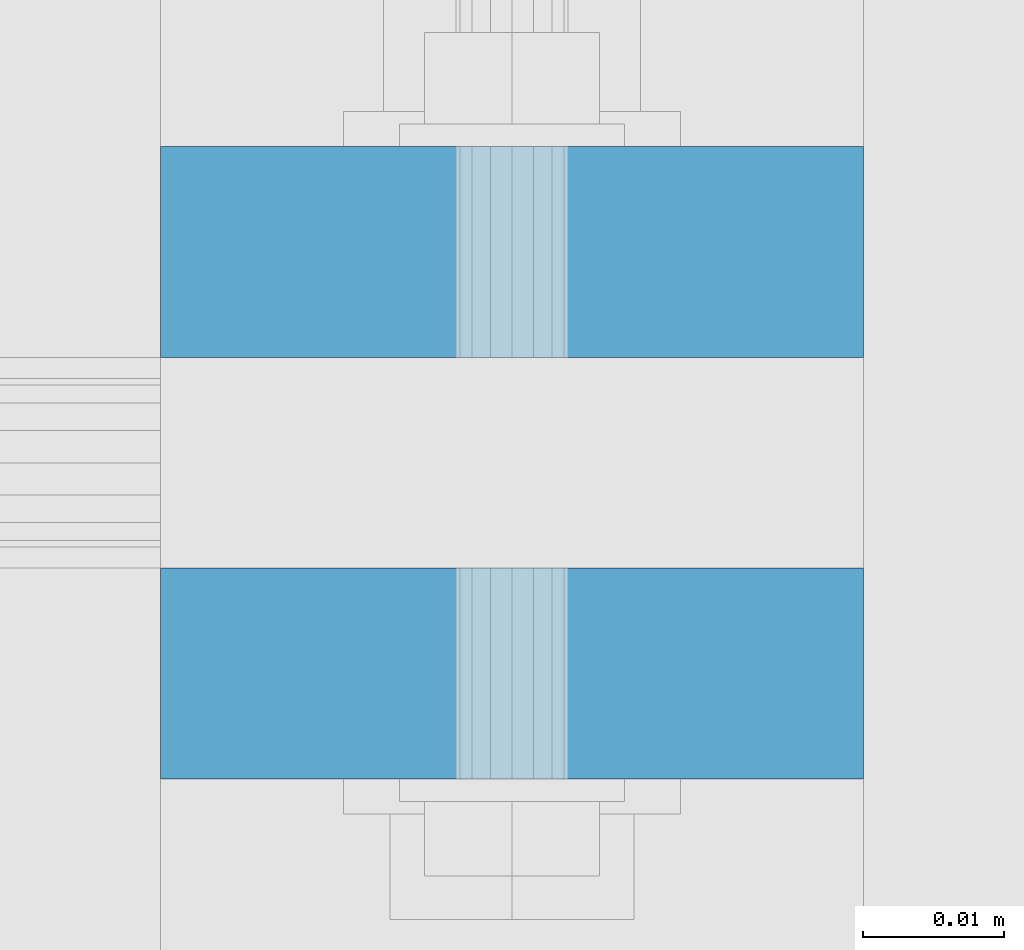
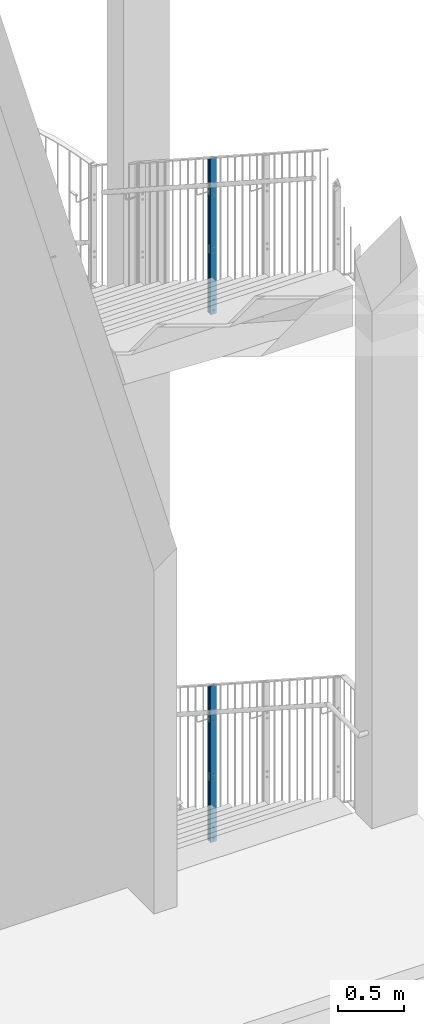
# One storey, part 40 of 296: 4 columns, 24 openings.
"""IFC2X3 building model written with IfcOpenShell, lengths in millimetres."""

from ifc_helpers import new_model, entity, si_unit, converted_unit, frame, frame_2d, origin, origin_with_axes, origin_2d, place, context, project, spatial, rectangle, circle, extrude, clip, halfspace, material, element, save


model = new_model("IFC2X3")

# Units and contexts
model_context = context("Model", 3, precision=1e-09, world=origin_with_axes())
ifc_project = project(units=[si_unit("LENGTHUNIT", "METRE", prefix="MILLI"), si_unit("AREAUNIT", "SQUARE_METRE"), si_unit("VOLUMEUNIT", "CUBIC_METRE"), converted_unit("PLANEANGLEUNIT", "DEGREE", entity("IfcPlaneAngleMeasure", 0.01745329), si_unit("PLANEANGLEUNIT", "RADIAN"), dimensions=[0, 0, 0, 0, 0, 0, 0])], contexts=[model_context])

# Site, building, storey
site_placement = place(None, origin_with_axes())
site = spatial("IfcSite", under=ifc_project, at=site_placement, Name="TZD-S?d | Treppenhausgel?nder", CompositionType="ELEMENT")
building_placement = place(site_placement, origin_with_axes())
building = spatial("IfcBuilding", under=site, at=building_placement, Name="Struktur 1", CompositionType="ELEMENT")
storey_placement = place(building_placement, origin_with_axes())
storey = spatial("IfcBuildingStorey", under=building, at=storey_placement, Name="Default Storey", CompositionType="ELEMENT", Elevation=0.0)

# Column, openings
ifc_material = material(Name="S235JR")
column_1_placement = place(None, frame((5894.999, -1505.0, 8154.999), z_axis=(0.0, 0.0, 1.0), x_axis=(0.0, -1.0, 0.0)))
column_1 = element("IfcColumn", 1, at=column_1_placement, inside=storey, material=ifc_material, Name="-", ObjectType="-", context=model_context, shape_type="Clipping", body=[
    clip(extrude(rectangle(XDim=15.0, YDim=50.0, at=origin_2d()), origin(), (0.0, 0.0, 1.0), 1455.90433317), halfspace(frame((-5431.250683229, -5894.999, -2092.80868189), z_axis=(0.543608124, 0.0, -0.839339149), x_axis=(0.0, 1.0, 0.0)), True)),
])
opening_1_placement = place(column_1_placement, frame((-8.0, 7.001, 135.0), z_axis=(-1.0, 0.0, 0.0), x_axis=(0.0, -1.0, 0.0)))
element("IfcOpeningElement", 2, at=opening_1_placement, cuts=column_1, ObjectType="Opening", context=model_context, shape_type="SweptSolid", body=[
    extrude(circle(Radius=7.001, at=frame_2d((7.001, 0.0), x_axis=(1.0, 0.0))), origin(), (0.0, 0.0, -1.0), 16.0),
])
opening_2_placement = place(column_1_placement, frame((-8.0, 7.001, 35.0), z_axis=(-1.0, 0.0, 0.0), x_axis=(0.0, -1.0, 0.0)))
element("IfcOpeningElement", 3, at=opening_2_placement, cuts=column_1, ObjectType="Opening", context=model_context, shape_type="SweptSolid", body=[
    extrude(circle(Radius=7.001, at=frame_2d((7.001, 0.0), x_axis=(1.0, 0.0))), origin(), (0.0, 0.0, -1.0), 16.0),
])
opening_3_placement = place(column_1_placement, frame((-8.0, 5.001, 1162.019363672), z_axis=(-1.0, 0.0, 0.0), x_axis=(0.0, -1.0, 0.0)))
element("IfcOpeningElement", 4, at=opening_3_placement, cuts=column_1, ObjectType="Opening", context=model_context, shape_type="SweptSolid", body=[
    extrude(circle(Radius=5.001, at=frame_2d((5.001, 0.0), x_axis=(1.0, 0.0))), origin(), (0.0, 0.0, -1.0), 16.0),
])
opening_4_placement = place(column_1_placement, frame((-8.0, 5.001, 1112.019363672), z_axis=(-1.0, 0.0, 0.0), x_axis=(0.0, -1.0, 0.0)))
element("IfcOpeningElement", 5, at=opening_4_placement, cuts=column_1, ObjectType="Opening", context=model_context, shape_type="SweptSolid", body=[
    extrude(circle(Radius=5.001, at=frame_2d((5.001, 0.0), x_axis=(1.0, 0.0))), origin(), (0.0, 0.0, -1.0), 16.0),
])
opening_5_placement = place(column_1_placement, frame((-8.0, 5.001, 624.999999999), z_axis=(-1.0, 0.0, 0.0), x_axis=(0.0, -1.0, 0.0)))
element("IfcOpeningElement", 6, at=opening_5_placement, cuts=column_1, ObjectType="Opening", context=model_context, shape_type="SweptSolid", body=[
    extrude(circle(Radius=5.001, at=frame_2d((5.001, 0.0), x_axis=(1.0, 0.0))), origin(), (0.0, 0.0, -1.0), 16.0),
])
opening_6_placement = place(column_1_placement, frame((-8.0, 5.001, 574.999999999), z_axis=(-1.0, 0.0, 0.0), x_axis=(0.0, -1.0, 0.0)))
element("IfcOpeningElement", 7, at=opening_6_placement, cuts=column_1, ObjectType="Opening", context=model_context, shape_type="SweptSolid", body=[
    extrude(circle(Radius=5.001, at=frame_2d((5.001, 0.0), x_axis=(1.0, 0.0))), origin(), (0.0, 0.0, -1.0), 16.0),
])

column_2_placement = place(None, frame((5894.999, -1535.0, 8154.999), z_axis=(0.0, 0.0, -1.0), x_axis=(0.0, 1.0, 0.0)))
column_2 = element("IfcColumn", 8, at=column_2_placement, inside=storey, material=ifc_material, Name="-", ObjectType="-", context=model_context, shape_type="Clipping", body=[
    clip(extrude(rectangle(XDim=15.0, YDim=50.0, at=origin_2d()), origin(), (0.0, 0.0, -1.0), 1475.334195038), halfspace(frame((5461.250683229, -5894.999, 2092.80868189), z_axis=(-0.543608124, 0.0, 0.839339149), x_axis=(0.0, 1.0, 0.0)), True)),
])
opening_7_placement = place(column_2_placement, frame((8.0, 7.001, -135.0), z_axis=(1.0, 0.0, 0.0), x_axis=(0.0, 1.0, 0.0)))
element("IfcOpeningElement", 9, at=opening_7_placement, cuts=column_2, ObjectType="Opening", context=model_context, shape_type="SweptSolid", body=[
    extrude(circle(Radius=7.001, at=frame_2d((-7.001, 0.0), x_axis=(1.0, 0.0))), origin(), (0.0, 0.0, -1.0), 16.0),
])
opening_8_placement = place(column_2_placement, frame((8.0, 7.001, -35.0), z_axis=(1.0, 0.0, 0.0), x_axis=(0.0, 1.0, 0.0)))
element("IfcOpeningElement", 10, at=opening_8_placement, cuts=column_2, ObjectType="Opening", context=model_context, shape_type="SweptSolid", body=[
    extrude(circle(Radius=7.001, at=frame_2d((-7.001, 0.0), x_axis=(1.0, 0.0))), origin(), (0.0, 0.0, -1.0), 16.0),
])
opening_9_placement = place(column_2_placement, frame((8.0, 5.001, -624.999999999), z_axis=(1.0, 0.0, 0.0), x_axis=(0.0, 1.0, 0.0)))
element("IfcOpeningElement", 11, at=opening_9_placement, cuts=column_2, ObjectType="Opening", context=model_context, shape_type="SweptSolid", body=[
    extrude(circle(Radius=5.001, at=frame_2d((-5.001, 0.0), x_axis=(1.0, 0.0))), origin(), (0.0, 0.0, -1.0), 16.0),
])
opening_10_placement = place(column_2_placement, frame((8.0, 5.001, -574.999999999), z_axis=(1.0, 0.0, 0.0), x_axis=(0.0, 1.0, 0.0)))
element("IfcOpeningElement", 12, at=opening_10_placement, cuts=column_2, ObjectType="Opening", context=model_context, shape_type="SweptSolid", body=[
    extrude(circle(Radius=5.001, at=frame_2d((-5.001, 0.0), x_axis=(1.0, 0.0))), origin(), (0.0, 0.0, -1.0), 16.0),
])
opening_11_placement = place(column_2_placement, frame((8.0, 5.001, -1162.019363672), z_axis=(1.0, 0.0, 0.0), x_axis=(0.0, 1.0, 0.0)))
element("IfcOpeningElement", 13, at=opening_11_placement, cuts=column_2, ObjectType="Opening", context=model_context, shape_type="SweptSolid", body=[
    extrude(circle(Radius=5.001, at=frame_2d((-5.001, 0.0), x_axis=(1.0, 0.0))), origin(), (0.0, 0.0, -1.0), 16.0),
])
opening_12_placement = place(column_2_placement, frame((8.0, 5.001, -1112.019363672), z_axis=(1.0, 0.0, 0.0), x_axis=(0.0, 1.0, 0.0)))
element("IfcOpeningElement", 14, at=opening_12_placement, cuts=column_2, ObjectType="Opening", context=model_context, shape_type="SweptSolid", body=[
    extrude(circle(Radius=5.001, at=frame_2d((-5.001, 0.0), x_axis=(1.0, 0.0))), origin(), (0.0, 0.0, -1.0), 16.0),
])

column_3_placement = place(None, frame((5894.999, -1505.0, 3254.997), z_axis=(0.0, 0.0, 1.0), x_axis=(0.0, -1.0, 0.0)))
column_3 = element("IfcColumn", 15, at=column_3_placement, inside=storey, material=ifc_material, Name="-", ObjectType="-", context=model_context, shape_type="Clipping", body=[
    clip(extrude(rectangle(XDim=15.0, YDim=50.0, at=origin_2d()), origin(), (0.0, 0.0, 1.0), 1461.343969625), halfspace(frame((-3197.585742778, -5894.999, -637.188152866), z_axis=(0.542959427, 0.0, -0.83975893), x_axis=(0.0, 1.0, 0.0)), True)),
])
opening_13_placement = place(column_3_placement, frame((-8.0, 5.001, 624.999999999), z_axis=(-1.0, 0.0, 0.0), x_axis=(0.0, -1.0, 0.0)))
element("IfcOpeningElement", 16, at=opening_13_placement, cuts=column_3, ObjectType="Opening", context=model_context, shape_type="SweptSolid", body=[
    extrude(circle(Radius=5.001, at=frame_2d((5.001, 0.0), x_axis=(1.0, 0.0))), origin(), (0.0, 0.0, -1.0), 16.0),
])
opening_14_placement = place(column_3_placement, frame((-8.0, 5.001, 574.999999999), z_axis=(-1.0, 0.0, 0.0), x_axis=(0.0, -1.0, 0.0)))
element("IfcOpeningElement", 17, at=opening_14_placement, cuts=column_3, ObjectType="Opening", context=model_context, shape_type="SweptSolid", body=[
    extrude(circle(Radius=5.001, at=frame_2d((5.001, 0.0), x_axis=(1.0, 0.0))), origin(), (0.0, 0.0, -1.0), 16.0),
])
opening_15_placement = place(column_3_placement, frame((-8.0, 5.001, 1167.708729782), z_axis=(-1.0, 0.0, 0.0), x_axis=(0.0, -1.0, 0.0)))
element("IfcOpeningElement", 18, at=opening_15_placement, cuts=column_3, ObjectType="Opening", context=model_context, shape_type="SweptSolid", body=[
    extrude(circle(Radius=5.001, at=frame_2d((5.001, 0.0), x_axis=(1.0, 0.0))), origin(), (0.0, 0.0, -1.0), 16.0),
])
opening_16_placement = place(column_3_placement, frame((-8.0, 5.001, 1117.708729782), z_axis=(-1.0, 0.0, 0.0), x_axis=(0.0, -1.0, 0.0)))
element("IfcOpeningElement", 19, at=opening_16_placement, cuts=column_3, ObjectType="Opening", context=model_context, shape_type="SweptSolid", body=[
    extrude(circle(Radius=5.001, at=frame_2d((5.001, 0.0), x_axis=(1.0, 0.0))), origin(), (0.0, 0.0, -1.0), 16.0),
])
opening_17_placement = place(column_3_placement, frame((-8.0, 7.001, 135.0), z_axis=(-1.0, 0.0, 0.0), x_axis=(0.0, -1.0, 0.0)))
element("IfcOpeningElement", 20, at=opening_17_placement, cuts=column_3, ObjectType="Opening", context=model_context, shape_type="SweptSolid", body=[
    extrude(circle(Radius=7.001, at=frame_2d((7.001, 0.0), x_axis=(1.0, 0.0))), origin(), (0.0, 0.0, -1.0), 16.0),
])
opening_18_placement = place(column_3_placement, frame((-8.0, 7.001, 35.0), z_axis=(-1.0, 0.0, 0.0), x_axis=(0.0, -1.0, 0.0)))
element("IfcOpeningElement", 21, at=opening_18_placement, cuts=column_3, ObjectType="Opening", context=model_context, shape_type="SweptSolid", body=[
    extrude(circle(Radius=7.001, at=frame_2d((7.001, 0.0), x_axis=(1.0, 0.0))), origin(), (0.0, 0.0, -1.0), 16.0),
])

column_4_placement = place(None, frame((5894.999, -1535.0, 3254.997), z_axis=(0.0, 0.0, -1.0), x_axis=(0.0, 1.0, 0.0)))
column_4 = element("IfcColumn", 22, at=column_4_placement, inside=storey, material=ifc_material, Name="-", ObjectType="-", context=model_context, shape_type="Clipping", body=[
    clip(extrude(rectangle(XDim=15.0, YDim=50.0, at=origin_2d()), origin(), (0.0, 0.0, -1.0), 1480.740944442), halfspace(frame((3227.585742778, -5894.999, 637.188152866), z_axis=(-0.542959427, 0.0, 0.83975893), x_axis=(0.0, 1.0, 0.0)), True)),
])
opening_19_placement = place(column_4_placement, frame((8.0, 5.001, -1167.708729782), z_axis=(1.0, 0.0, 0.0), x_axis=(0.0, 1.0, 0.0)))
element("IfcOpeningElement", 23, at=opening_19_placement, cuts=column_4, ObjectType="Opening", context=model_context, shape_type="SweptSolid", body=[
    extrude(circle(Radius=5.001, at=frame_2d((-5.001, 0.0), x_axis=(1.0, 0.0))), origin(), (0.0, 0.0, -1.0), 16.0),
])
opening_20_placement = place(column_4_placement, frame((8.0, 5.001, -1117.708729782), z_axis=(1.0, 0.0, 0.0), x_axis=(0.0, 1.0, 0.0)))
element("IfcOpeningElement", 24, at=opening_20_placement, cuts=column_4, ObjectType="Opening", context=model_context, shape_type="SweptSolid", body=[
    extrude(circle(Radius=5.001, at=frame_2d((-5.001, 0.0), x_axis=(1.0, 0.0))), origin(), (0.0, 0.0, -1.0), 16.0),
])
opening_21_placement = place(column_4_placement, frame((8.0, 5.001, -624.999999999), z_axis=(1.0, 0.0, 0.0), x_axis=(0.0, 1.0, 0.0)))
element("IfcOpeningElement", 25, at=opening_21_placement, cuts=column_4, ObjectType="Opening", context=model_context, shape_type="SweptSolid", body=[
    extrude(circle(Radius=5.001, at=frame_2d((-5.001, 0.0), x_axis=(1.0, 0.0))), origin(), (0.0, 0.0, -1.0), 16.0),
])
opening_22_placement = place(column_4_placement, frame((8.0, 5.001, -574.999999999), z_axis=(1.0, 0.0, 0.0), x_axis=(0.0, 1.0, 0.0)))
element("IfcOpeningElement", 26, at=opening_22_placement, cuts=column_4, ObjectType="Opening", context=model_context, shape_type="SweptSolid", body=[
    extrude(circle(Radius=5.001, at=frame_2d((-5.001, 0.0), x_axis=(1.0, 0.0))), origin(), (0.0, 0.0, -1.0), 16.0),
])
opening_23_placement = place(column_4_placement, frame((8.0, 7.001, -135.0), z_axis=(1.0, 0.0, 0.0), x_axis=(0.0, 1.0, 0.0)))
element("IfcOpeningElement", 27, at=opening_23_placement, cuts=column_4, ObjectType="Opening", context=model_context, shape_type="SweptSolid", body=[
    extrude(circle(Radius=7.001, at=frame_2d((-7.001, 0.0), x_axis=(1.0, 0.0))), origin(), (0.0, 0.0, -1.0), 16.0),
])
opening_24_placement = place(column_4_placement, frame((8.0, 7.001, -35.0), z_axis=(1.0, 0.0, 0.0), x_axis=(0.0, 1.0, 0.0)))
element("IfcOpeningElement", 28, at=opening_24_placement, cuts=column_4, ObjectType="Opening", context=model_context, shape_type="SweptSolid", body=[
    extrude(circle(Radius=7.001, at=frame_2d((-7.001, 0.0), x_axis=(1.0, 0.0))), origin(), (0.0, 0.0, -1.0), 16.0),
])

save(model, "model.ifc")
